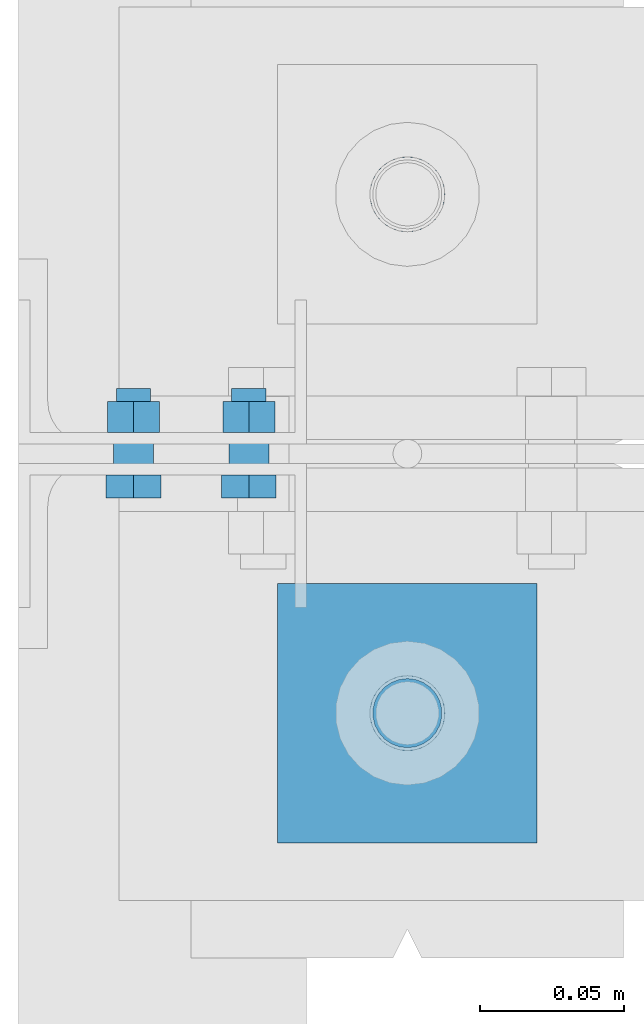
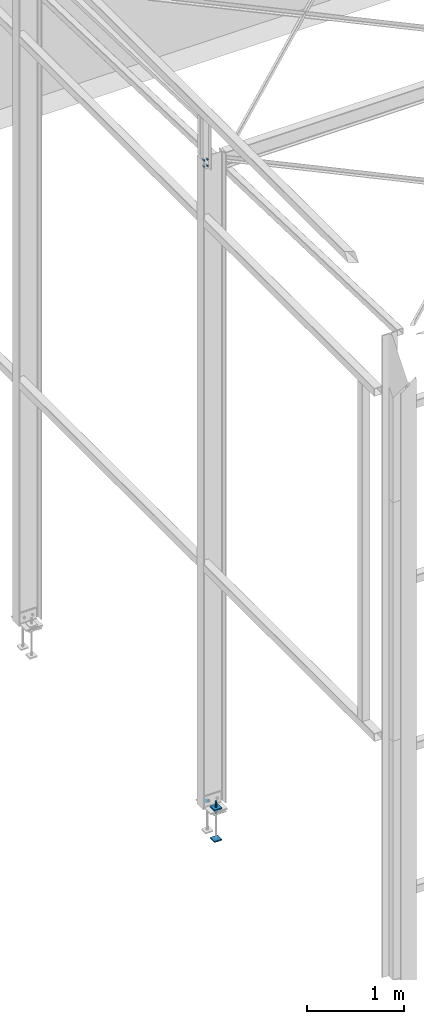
# One storey, part 60 of 123: 3 discrete accessories, 2 mechanical fasteners, 2 elements without a shape of their own.
"""IFC2X3 building model written with IfcOpenShell, lengths in millimetres."""

from ifc_helpers import new_model, si_unit, frame, origin_with_axes, origin_2d_with_axis, place, context, subcontext, project, spatial, polyline, circle, outline, extrude, source, transform, mapped, material, type_object, element, aggregate, save


model = new_model("IFC2X3")

# Units and contexts
model_context = context("Model", 3, precision=1e-05, world=origin_with_axes())
body_context = subcontext(model_context, "Body", "Model", "MODEL_VIEW")
ifc_project = project(units=[si_unit("LENGTHUNIT", "METRE", prefix="MILLI"), si_unit("AREAUNIT", "SQUARE_METRE"), si_unit("VOLUMEUNIT", "CUBIC_METRE"), si_unit("MASSUNIT", "GRAM", prefix="KILO"), si_unit("TIMEUNIT", "SECOND"), si_unit("PLANEANGLEUNIT", "RADIAN"), si_unit("SOLIDANGLEUNIT", "STERADIAN"), si_unit("THERMODYNAMICTEMPERATUREUNIT", "DEGREE_CELSIUS"), si_unit("LUMINOUSINTENSITYUNIT", "LUMEN")], contexts=[model_context])

# Site, building, storey
site_placement = place(None, origin_with_axes())
site = spatial("IfcSite", under=ifc_project, at=site_placement, Name="Undefined", CompositionType="ELEMENT")
building_placement = place(site_placement, origin_with_axes())
building = spatial("IfcBuilding", under=site, at=building_placement, Name="Undefined", CompositionType="ELEMENT")
storey_placement = place(building_placement, origin_with_axes())
storey = spatial("IfcBuildingStorey", under=building, at=storey_placement, Name="Undefined", CompositionType="ELEMENT", Elevation=0.0)

# Assembly, mechanical fastener
assembly_1_placement = place(storey_placement, origin_with_axes())
assembly_1 = element("IfcElementAssembly", 1, at=assembly_1_placement, inside=storey, Name="Steel Assembly", AssemblyPlace="NOTDEFINED", PredefinedType="RIGID_FRAME")
ifc_material_1 = material(Name="8.8-SB-Z")
discrete_accessory_type_1 = type_object("IfcDiscreteAccessoryType", Name="Bolt assembly")
shared_shape_1 = source(origin_with_axes(), body_context, "Body", "SweptSolid", [
    extrude(circle(Radius=7.0, at=origin_2d_with_axis()), frame((0.0, -3.29999995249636, 0.0), z_axis=(0.0, 1.0, 0.0), x_axis=(1.0, 0.0, 0.0)), (0.0, 0.0, 1.0), 6.6),
    extrude(circle(Radius=7.0, at=origin_2d_with_axis()), frame((0.0, 3.19999995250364, 0.0), z_axis=(0.0, 1.0, 0.0), x_axis=(1.0, 0.0, 0.0)), (0.0, 0.0, 1.0), 4.1),
    extrude(circle(Radius=7.0, at=origin_2d_with_axis()), frame((0.0, -7.1999999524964, 0.0), z_axis=(0.0, 1.0, 0.0), x_axis=(1.0, 0.0, 0.0)), (0.0, 0.0, 1.0), 4.0),
    extrude(outline(polyline([(10.96965511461, 0.0), (5.484827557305, 9.50000000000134), (-5.484827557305, 9.50000000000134), (-10.96965511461, 0.0), (-5.484827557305, -9.50000000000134), (5.484827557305, -9.50000000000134), (10.96965511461, 0.0)])), frame((0.0, -15.2999999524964, 0.0), z_axis=(0.0, 1.0, 0.0), x_axis=(1.0, 0.0, 0.0)), (0.0, 0.0, 1.0), 8.0),
    extrude(circle(Radius=6.0, at=origin_2d_with_axis()), frame((0.0, -7.29999995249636, 0.0), z_axis=(0.0, 1.0, 0.0), x_axis=(1.0, 0.0, 0.0)), (0.0, 0.0, 1.0), 30.0),
    extrude(outline(polyline([(10.39230484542, 0.0), (5.19615242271, 9.00000000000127), (-5.19615242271, 9.00000000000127), (-10.39230484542, 0.0), (-5.19615242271, -9.00000000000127), (5.19615242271, -9.00000000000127), (10.39230484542, 0.0)])), frame((0.0, 7.29999995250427, 0.0), z_axis=(0.0, 1.0, 0.0), x_axis=(1.0, 0.0, 0.0)), (0.0, 0.0, 1.0), 10.8),
])
mechanical_fastener_1_placement = place(assembly_1_placement, frame((-120.000001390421, 3800.0, 7809.99916593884), z_axis=(-1.0, 0.0, 0.0), x_axis=(0.0, 0.0, 1.0)))
mechanical_fastener_1 = element("IfcMechanicalFastener", 2, at=mechanical_fastener_1_placement, type_object=discrete_accessory_type_1, material=ifc_material_1, Name="Bolt assembly", NominalDiameter=12.0, NominalLength=30.0, context=body_context, shape_type="MappedRepresentation", body=[
    mapped(shared_shape_1, transform((0.0, 0.0, -20.0))),
    mapped(shared_shape_1, transform((80.0, 0.0, -20.0))),
    mapped(shared_shape_1, transform((0.0, 0.0, 20.0))),
    mapped(shared_shape_1, transform((80.0, 0.0, 20.0))),
])
aggregate(assembly_1, [mechanical_fastener_1])

# Assembly, mechanical fastener, discrete accessories
assembly_2_placement = place(storey_placement, origin_with_axes())
assembly_2 = element("IfcElementAssembly", 3, at=assembly_2_placement, inside=storey, Name="Steel Assembly", AssemblyPlace="NOTDEFINED", PredefinedType="RIGID_FRAME")
ifc_material_2 = material(Name="6.8")
shared_shape_2 = source(origin_with_axes(), body_context, "Body", "SweptSolid", [
    extrude(circle(Radius=13.0, at=origin_2d_with_axis()), frame((0.0, 0.0, 0.0), z_axis=(0.0, 1.0, 0.0), x_axis=(1.0, 0.0, 0.0)), (0.0, 0.0, 1.0), 10.1),
])
mechanical_fastener_2_placement = place(assembly_2_placement, frame((-45.0, 3800.00000007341, -250.0), z_axis=(0.0, -1.0, 0.0), x_axis=(-1.0, 0.0, 0.0)))
mechanical_fastener_2 = element("IfcMechanicalFastener", 4, at=mechanical_fastener_2_placement, type_object=discrete_accessory_type_1, material=ifc_material_2, Name="Bolt assembly", NominalDiameter=24.0, NominalLength=10.0, context=body_context, shape_type="MappedRepresentation", body=[
    mapped(shared_shape_2, transform((-4.00177668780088e-11, 0.0, -90.0))),
    mapped(shared_shape_2, transform((4.00177668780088e-11, 0.0, 90.0))),
])
ifc_material_3 = material(Name="STEEL/S235-E24")
discrete_accessory_type_2 = type_object("IfcDiscreteAccessoryType", Name="PLAQUETTE")
discrete_accessory_1_placement = place(assembly_2_placement, frame((0.0, 3754.99715044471, -227.5), z_axis=(0.0, 0.0, 1.0), x_axis=(-1.0, 0.0, 0.0)))
discrete_accessory_1 = element("IfcDiscreteAccessory", 5, at=discrete_accessory_1_placement, type_object=discrete_accessory_type_2, material=ifc_material_3, Name="PLAQUETTE", ObjectType="PL15*90", context=body_context, shape_type="SweptSolid", body=[
    extrude(outline(polyline([(0.0, 0.0), (90.0, 0.0), (90.0, 90.0), (0.0, 90.0), (0.0, 0.0)])), frame((0.0, 0.0, -7.5), z_axis=(0.0, 0.0, 1.0), x_axis=(1.0, 0.0, 0.0)), (0.0, 0.0, 1.0), 15.0),
])
discrete_accessory_2_placement = place(assembly_2_placement, frame((0.0, 3754.99715044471, -622.5), z_axis=(0.0, 0.0, 1.0), x_axis=(-1.0, 0.0, 0.0)))
discrete_accessory_2 = element("IfcDiscreteAccessory", 6, at=discrete_accessory_2_placement, type_object=discrete_accessory_type_2, material=ifc_material_3, Name="PLAQUETTE", ObjectType="PL15*90", context=body_context, shape_type="SweptSolid", body=[
    extrude(outline(polyline([(0.0, 0.0), (90.0, 0.0), (90.0, 90.0), (0.0, 90.0), (0.0, 0.0)])), frame((0.0, 0.0, -7.5), z_axis=(0.0, 0.0, 1.0), x_axis=(1.0, 0.0, 0.0)), (0.0, 0.0, 1.0), 15.0),
])
discrete_accessory_type_3 = type_object("IfcDiscreteAccessoryType", Name="TIGE D'ANCRAGE")
discrete_accessory_3_placement = place(assembly_2_placement, frame((-45.0, 3709.99715044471, -150.0), z_axis=(-1.0, 0.0, 0.0), x_axis=(0.0, 0.0, -1.0)))
discrete_accessory_3 = element("IfcDiscreteAccessory", 7, at=discrete_accessory_3_placement, type_object=discrete_accessory_type_3, material=ifc_material_3, Name="TIGE D'ANCRAGE", ObjectType="D24", context=body_context, shape_type="SweptSolid", body=[
    extrude(circle(Radius=12.0, at=origin_2d_with_axis()), frame((150.0, 0.0, 0.0), z_axis=(-1.0, 0.0, 0.0), x_axis=(0.0, -1.0, 0.0)), (0.0, 0.0, 1.0), 150.0),
])
aggregate(assembly_2, [mechanical_fastener_2, discrete_accessory_1, discrete_accessory_2, discrete_accessory_3])

save(model, "model.ifc")
